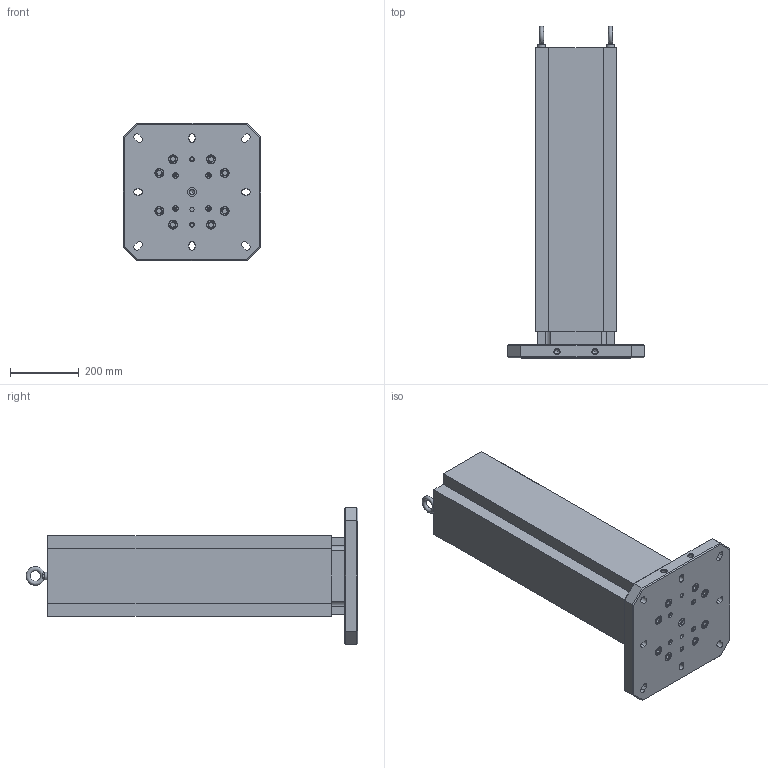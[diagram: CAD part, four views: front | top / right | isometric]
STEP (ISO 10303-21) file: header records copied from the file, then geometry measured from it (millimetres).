
FILE_DESCRIPTION (( 'STEP AP214' ), '1' );
FILE_NAME ('MTA-4004U-900_WEBSITE.step', '2025-08-11T12:52:26', ( '' ), ( '' ), 'SwSTEP 2.0', 'SolidWorks 2024', '' );
FILE_SCHEMA (( 'AUTOMOTIVE_DESIGN' ));
Length unit declared in the file: millimetre
Products named in the file (7): M12X24MM.EB (McM 3040T15)_WEBSITE_3040T15; MTA-4004U-900_WEBSITE; RL96-4004BUA_WEBSITE; HW.76172_WEBSITE; RL96-14TC_WEBSITE; HW.76452_dev_WEBSITE_91290A835; MT-4862A_WEBSITE_MT-4600A
Assembly tree (17 placements, depth 2):
  MTA-4004U-900_WEBSITE
    RL96-4004BUA_WEBSITE
    MT-4862A_WEBSITE_MT-4600A
    M12X24MM.EB (McM 3040T15)_WEBSITE_3040T15  x2
    HW.76452_dev_WEBSITE_91290A835  x8
    RL96-14TC_WEBSITE
    HW.76172_WEBSITE  x4
Bounding box: 400 x 962.88 x 400 mm (x, y, z)
Volume: 34052769.6 mm3; surface area: 1829289.8 mm2
Topology: 17 solids, 17 shells, 585 faces, 1278 edges, 787 vertices
Faces by surface type: plane 314, cylinder 158, cone 111, torus 2
Full cylindrical faces by diameter (mm): 5 x4, 6 x4, 6.6 x4, 8.5 x4, 10 x4, 10.025 x4, 10.2 x4, 11 x4, 12 x3, 14 x12, 16 x8, 16.02 x4, 17.5 x16, 23 x2, 24 x8, 25.025 x1, 26 x8
Entity records: 11576 total; most frequent: CARTESIAN_POINT 1987, DIRECTION 1878, ORIENTED_EDGE 1574, EDGE_CURVE 787, AXIS2_PLACEMENT_3D 702, EDGE_LOOP 588, VERTEX_POINT 561, LINE 474
